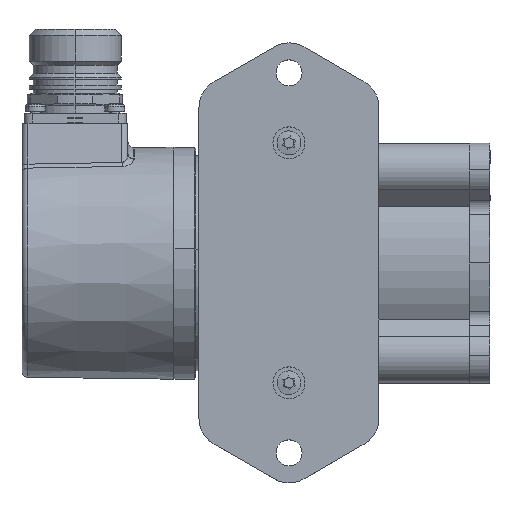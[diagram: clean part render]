
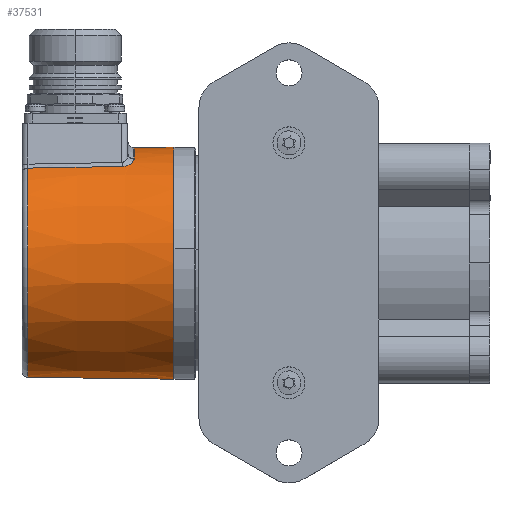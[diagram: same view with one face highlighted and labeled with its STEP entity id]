
A CAD part, top view. The second image highlights one B-rep face of the part: STEP entity #37531.
In plain terms, the highlighted conical face has half-angle 0.75 degrees and reference radius 29 mm.
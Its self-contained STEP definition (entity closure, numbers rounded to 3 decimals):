
#35878 = VERTEX_POINT ( 'NONE', #55242 ) ;
#35881 = EDGE_CURVE ( 'NONE', #35882, #35878, #55241, .T. ) ;
#35882 = VERTEX_POINT ( 'NONE', #55236 ) ;
#36724 = VERTEX_POINT ( 'NONE', #56970 ) ;
#36726 = EDGE_CURVE ( 'NONE', #36727, #36724, #56965, .T. ) ;
#36727 = VERTEX_POINT ( 'NONE', #56960 ) ;
#36940 = EDGE_CURVE ( 'NONE', #35882, #36943, #57451, .T. ) ;
#36943 = VERTEX_POINT ( 'NONE', #57447 ) ;
#36949 = VERTEX_POINT ( 'NONE', #57441 ) ;
#36953 = EDGE_CURVE ( 'NONE', #36724, #36949, #57440, .T. ) ;
#37403 = EDGE_LOOP ( 'NONE', ( #37405, #37407, #37409, #37507, #37509, #37510, #37511 ) ) ;
#37405 = ORIENTED_EDGE ( 'NONE', *, *, #36940, .F. ) ;
#37407 = ORIENTED_EDGE ( 'NONE', *, *, #35881, .T. ) ;
#37409 = ORIENTED_EDGE ( 'NONE', *, *, #37505, .F. ) ;
#37505 = EDGE_CURVE ( 'NONE', #37506, #35878, #58377, .T. ) ;
#37506 = VERTEX_POINT ( 'NONE', #58376 ) ;
#37507 = ORIENTED_EDGE ( 'NONE', *, *, #37508, .T. ) ;
#37508 = EDGE_CURVE ( 'NONE', #37506, #36727, #58373, .T. ) ;
#37509 = ORIENTED_EDGE ( 'NONE', *, *, #36726, .T. ) ;
#37510 = ORIENTED_EDGE ( 'NONE', *, *, #36953, .T. ) ;
#37511 = ORIENTED_EDGE ( 'NONE', *, *, #37528, .T. ) ;
#37528 = EDGE_CURVE ( 'NONE', #36949, #36943, #58415, .T. ) ;
#37531 = ADVANCED_FACE ( 'NONE', ( #58410 ), #58447, .T. ) ;
#55236 = CARTESIAN_POINT ( 'NONE',  ( -50.98, 28.869, 0.126 ) ) ;
#55237 = DIRECTION ( 'NONE',  ( 0., 1., 0.004 ) ) ;
#55238 = DIRECTION ( 'NONE',  ( 1., 0., 0. ) ) ;
#55239 = CARTESIAN_POINT ( 'NONE',  ( -50.98, 0., 0. ) ) ;
#55240 = AXIS2_PLACEMENT_3D ( 'NONE', #55239, #55238, #55237 ) ;
#55241 = CIRCLE ( 'NONE', #55240, 28.869 ) ;
#55242 = CARTESIAN_POINT ( 'NONE',  ( -50.98, 26.007, 12.533 ) ) ;
#56960 = CARTESIAN_POINT ( 'NONE',  ( -77.52, 23.744, 15.803 ) ) ;
#56961 = DIRECTION ( 'NONE',  ( 0., 1., 0.004 ) ) ;
#56962 = DIRECTION ( 'NONE',  ( 1., 0., 0. ) ) ;
#56963 = CARTESIAN_POINT ( 'NONE',  ( -77.52, 0., 0. ) ) ;
#56964 = AXIS2_PLACEMENT_3D ( 'NONE', #56963, #56962, #56961 ) ;
#56965 = CIRCLE ( 'NONE', #56964, 28.522 ) ;
#56970 = CARTESIAN_POINT ( 'NONE',  ( -77.52, -28.522, -0.124 ) ) ;
#57437 = DIRECTION ( 'NONE',  ( 1., -0.013, 0. ) ) ;
#57438 = VECTOR ( 'NONE', #57437, 1000. ) ;
#57439 = CARTESIAN_POINT ( 'NONE',  ( -41., -29., -0.127 ) ) ;
#57440 = LINE ( 'NONE', #57439, #57438 ) ;
#57441 = CARTESIAN_POINT ( 'NONE',  ( -41., -29., -0.127 ) ) ;
#57447 = CARTESIAN_POINT ( 'NONE',  ( -41., 29., 0.127 ) ) ;
#57448 = DIRECTION ( 'NONE',  ( 1., 0.013, 0. ) ) ;
#57449 = VECTOR ( 'NONE', #57448, 1000. ) ;
#57450 = CARTESIAN_POINT ( 'NONE',  ( -41., 29., 0.127 ) ) ;
#57451 = LINE ( 'NONE', #57450, #57449 ) ;
#58342 = CARTESIAN_POINT ( 'NONE',  ( -68.978, 23.892, 15.782 ) ) ;
#58343 = CARTESIAN_POINT ( 'NONE',  ( -64.979, 23.962, 15.771 ) ) ;
#58344 = CARTESIAN_POINT ( 'NONE',  ( -60.979, 24.031, 15.761 ) ) ;
#58345 = CARTESIAN_POINT ( 'NONE',  ( -56.98, 24.1, 15.751 ) ) ;
#58346 = CARTESIAN_POINT ( 'NONE',  ( -55.98, 24.117, 15.749 ) ) ;
#58347 = CARTESIAN_POINT ( 'NONE',  ( -54.98, 24.135, 15.746 ) ) ;
#58348 = CARTESIAN_POINT ( 'NONE',  ( -53.98, 24.152, 15.744 ) ) ;
#58355 = CARTESIAN_POINT ( 'NONE',  ( -50.98, 26.007, 12.533 ) ) ;
#58356 = CARTESIAN_POINT ( 'NONE',  ( -50.98, 25.816, 12.93 ) ) ;
#58357 = CARTESIAN_POINT ( 'NONE',  ( -51.049, 25.619, 13.312 ) ) ;
#58358 = CARTESIAN_POINT ( 'NONE',  ( -51.25, 25.32, 13.863 ) ) ;
#58359 = CARTESIAN_POINT ( 'NONE',  ( -51.334, 25.22, 14.042 ) ) ;
#58360 = CARTESIAN_POINT ( 'NONE',  ( -51.529, 25.026, 14.378 ) ) ;
#58361 = CARTESIAN_POINT ( 'NONE',  ( -51.641, 24.932, 14.538 ) ) ;
#58362 = CARTESIAN_POINT ( 'NONE',  ( -51.899, 24.75, 14.84 ) ) ;
#58363 = CARTESIAN_POINT ( 'NONE',  ( -52.045, 24.661, 14.983 ) ) ;
#58364 = CARTESIAN_POINT ( 'NONE',  ( -52.364, 24.501, 15.236 ) ) ;
#58365 = CARTESIAN_POINT ( 'NONE',  ( -52.537, 24.428, 15.348 ) ) ;
#58366 = CARTESIAN_POINT ( 'NONE',  ( -52.917, 24.301, 15.538 ) ) ;
#58367 = CARTESIAN_POINT ( 'NONE',  ( -53.117, 24.25, 15.612 ) ) ;
#58368 = CARTESIAN_POINT ( 'NONE',  ( -53.538, 24.177, 15.715 ) ) ;
#58369 = CARTESIAN_POINT ( 'NONE',  ( -53.758, 24.156, 15.743 ) ) ;
#58370 = CARTESIAN_POINT ( 'NONE',  ( -53.98, 24.152, 15.744 ) ) ;
#58373 = B_SPLINE_CURVE_WITH_KNOTS ( 'NONE', 3,
 ( #58348, #58347, #58346, #58345, #58344, #58343, #58342, #58400, #58399, #58398 ),
 .UNSPECIFIED., .F., .F.,
 ( 4, 3, 3, 4 ),
 ( 0., 0.003, 0.015, 0.024 ),
 .UNSPECIFIED. ) ;
#58376 = CARTESIAN_POINT ( 'NONE',  ( -53.98, 24.152, 15.744 ) ) ;
#58377 = B_SPLINE_CURVE_WITH_KNOTS ( 'NONE', 3,
 ( #58370, #58369, #58368, #58367, #58366, #58365, #58364, #58363, #58362, #58361, #58360, #58359, #58358, #58357, #58356, #58355 ),
 .UNSPECIFIED., .F., .F.,
 ( 4, 2, 2, 2, 2, 2, 2, 4 ),
 ( 0., 0.001, 0.001, 0.002, 0.003, 0.003, 0.004, 0.005 ),
 .UNSPECIFIED. ) ;
#58398 = CARTESIAN_POINT ( 'NONE',  ( -77.52, 23.744, 15.803 ) ) ;
#58399 = CARTESIAN_POINT ( 'NONE',  ( -74.672, 23.793, 15.796 ) ) ;
#58400 = CARTESIAN_POINT ( 'NONE',  ( -71.825, 23.843, 15.789 ) ) ;
#58410 = FACE_OUTER_BOUND ( 'NONE', #37403, .T. ) ;
#58411 = DIRECTION ( 'NONE',  ( 0., 1., 0.004 ) ) ;
#58412 = DIRECTION ( 'NONE',  ( -1., 0., 0. ) ) ;
#58413 = CARTESIAN_POINT ( 'NONE',  ( -41., 0., 0. ) ) ;
#58414 = AXIS2_PLACEMENT_3D ( 'NONE', #58413, #58412, #58411 ) ;
#58415 = CIRCLE ( 'NONE', #58414, 29. ) ;
#58442 = DIRECTION ( 'NONE',  ( 0., -1., -0.004 ) ) ;
#58444 = DIRECTION ( 'NONE',  ( 1., 0., 0. ) ) ;
#58445 = CARTESIAN_POINT ( 'NONE',  ( -41., 0., 0. ) ) ;
#58446 = AXIS2_PLACEMENT_3D ( 'NONE', #58445, #58444, #58442 ) ;
#58447 = CONICAL_SURFACE ( 'NONE', #58446, 29., 0.013 ) ;
